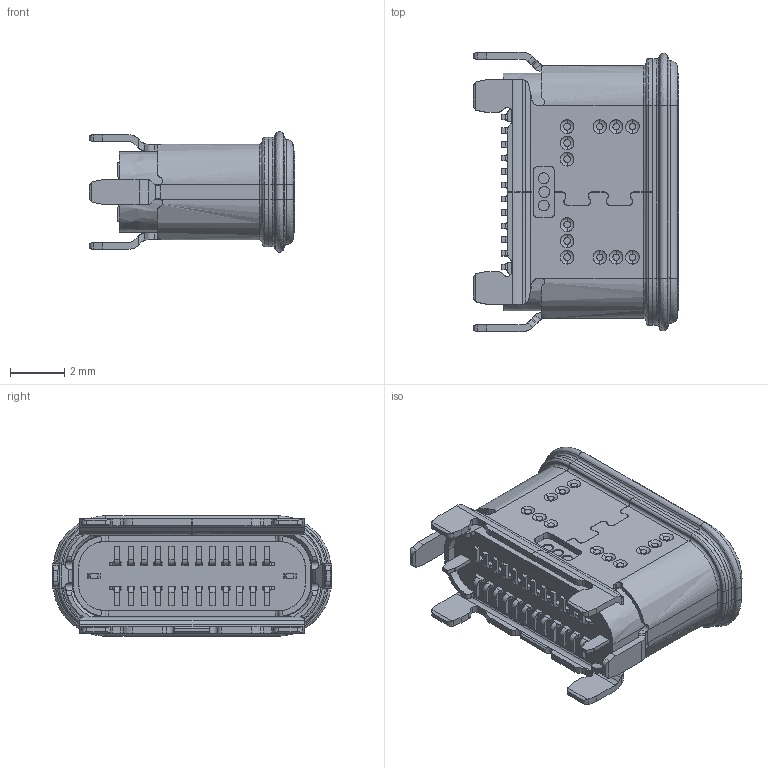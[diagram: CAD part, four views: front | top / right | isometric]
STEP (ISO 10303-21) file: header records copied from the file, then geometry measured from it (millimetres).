
FILE_DESCRIPTION (( 'STEP AP214' ), '1' );
FILE_NAME ('U5291-24PN6.5LF.STEP', '2026-07-30T01:49:21', ( '' ), ( '' ), 'SwSTEP 2.0', 'SolidWorks 2024', '' );
FILE_SCHEMA (( 'AUTOMOTIVE_DESIGN' ));
Products named in the file (1): U5291-24PN6.5LF
Bounding box: 7.55 x 10.25 x 4.42 mm (x, y, z)
Surface area: 1289.1 mm2 (no closed solid volume)
Topology: 0 solids, 802 shells, 4475 faces, 18615 edges, 14160 vertices
Faces by surface type: bspline 4475
Entity records: 188055 total; most frequent: CARTESIAN_POINT 94123, ORIENTED_EDGE 27358, EDGE_CURVE 18583, B_SPLINE_CURVE_WITH_KNOTS 16324, VERTEX_POINT 14160, EDGE_LOOP 4635, ADVANCED_FACE 4475, FACE_OUTER_BOUND 4475
